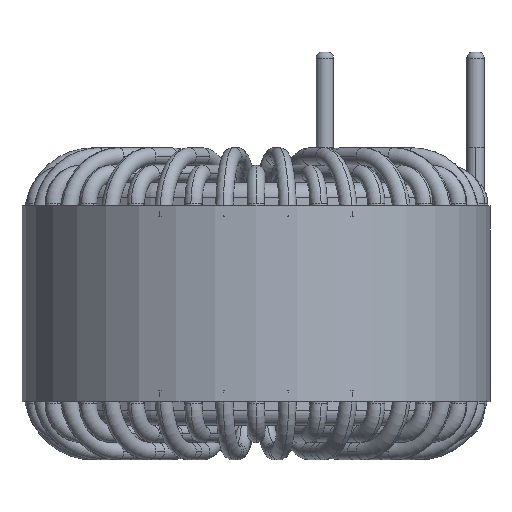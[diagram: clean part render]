
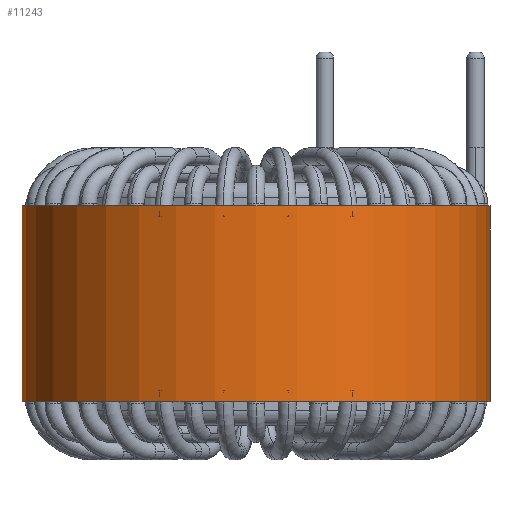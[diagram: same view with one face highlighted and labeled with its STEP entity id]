
A CAD part, front view. The second image highlights one B-rep face of the part: STEP entity #11243.
In plain terms, the highlighted cylindrical face has radius 31.055 mm (diameter 62.11 mm), a partial arc.
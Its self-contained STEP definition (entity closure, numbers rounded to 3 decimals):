
#144 = EDGE_CURVE ( 'NONE', #19562, #11171, #12343, .T. ) ;
#327 = CARTESIAN_POINT ( 'NONE',  ( 31.055, 0., 13. ) ) ;
#1237 = CIRCLE ( 'NONE', #40764, 31.055 ) ;
#9646 = ORIENTED_EDGE ( 'NONE', *, *, #144, .T. ) ;
#10266 = DIRECTION ( 'NONE',  ( 0., 0., 1. ) ) ;
#11171 = VERTEX_POINT ( 'NONE', #44555 ) ;
#11243 = ADVANCED_FACE ( 'NONE', ( #56530 ), #19946, .T. ) ;
#12343 = CIRCLE ( 'NONE', #23012, 31.055 ) ;
#12348 = CARTESIAN_POINT ( 'NONE',  ( 0., 0., 13. ) ) ;
#14503 = CARTESIAN_POINT ( 'NONE',  ( 0., 0., -13. ) ) ;
#15204 = DIRECTION ( 'NONE',  ( 0., 0., -1. ) ) ;
#15685 = CARTESIAN_POINT ( 'NONE',  ( 31.055, 0., 13. ) ) ;
#17031 = LINE ( 'NONE', #15685, #31271 ) ;
#19562 = VERTEX_POINT ( 'NONE', #41244 ) ;
#19946 = CYLINDRICAL_SURFACE ( 'NONE', #25781, 31.055 ) ;
#20749 = LINE ( 'NONE', #42165, #47274 ) ;
#22850 = VERTEX_POINT ( 'NONE', #51593 ) ;
#23012 = AXIS2_PLACEMENT_3D ( 'NONE', #14503, #10266, #23880 ) ;
#23880 = DIRECTION ( 'NONE',  ( 1., 0., 0. ) ) ;
#24724 = DIRECTION ( 'NONE',  ( 1., 0., 0. ) ) ;
#25554 = EDGE_CURVE ( 'NONE', #22850, #19562, #20749, .T. ) ;
#25781 = AXIS2_PLACEMENT_3D ( 'NONE', #12348, #30913, #44744 ) ;
#30913 = DIRECTION ( 'NONE',  ( 0., 0., -1. ) ) ;
#31271 = VECTOR ( 'NONE', #38641, 1000. ) ;
#33314 = ORIENTED_EDGE ( 'NONE', *, *, #42613, .F. ) ;
#36028 = ORIENTED_EDGE ( 'NONE', *, *, #43143, .F. ) ;
#38641 = DIRECTION ( 'NONE',  ( 0., 0., -1. ) ) ;
#40764 = AXIS2_PLACEMENT_3D ( 'NONE', #47571, #43305, #24724 ) ;
#41244 = CARTESIAN_POINT ( 'NONE',  ( -31.055, 0., -13. ) ) ;
#42165 = CARTESIAN_POINT ( 'NONE',  ( -31.055, 0., 13. ) ) ;
#42613 = EDGE_CURVE ( 'NONE', #22850, #54985, #1237, .T. ) ;
#43143 = EDGE_CURVE ( 'NONE', #54985, #11171, #17031, .T. ) ;
#43305 = DIRECTION ( 'NONE',  ( 0., 0., 1. ) ) ;
#44555 = CARTESIAN_POINT ( 'NONE',  ( 31.055, 0., -13. ) ) ;
#44572 = EDGE_LOOP ( 'NONE', ( #36028, #33314, #53983, #9646 ) ) ;
#44744 = DIRECTION ( 'NONE',  ( -1., 0., 0. ) ) ;
#47274 = VECTOR ( 'NONE', #15204, 1000. ) ;
#47571 = CARTESIAN_POINT ( 'NONE',  ( 0., 0., 13. ) ) ;
#51593 = CARTESIAN_POINT ( 'NONE',  ( -31.055, 0., 13. ) ) ;
#53983 = ORIENTED_EDGE ( 'NONE', *, *, #25554, .T. ) ;
#54985 = VERTEX_POINT ( 'NONE', #327 ) ;
#56530 = FACE_OUTER_BOUND ( 'NONE', #44572, .T. ) ;
